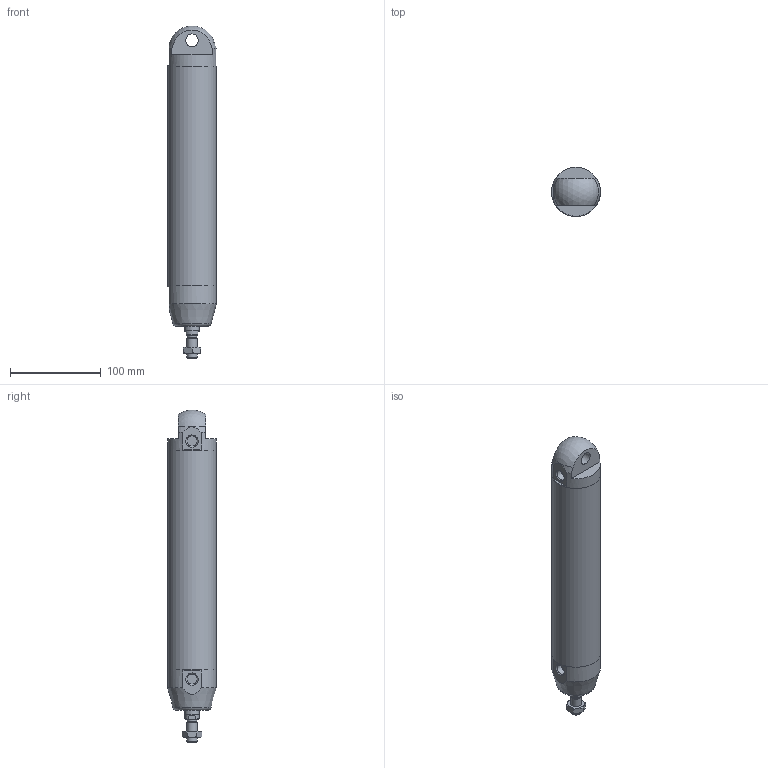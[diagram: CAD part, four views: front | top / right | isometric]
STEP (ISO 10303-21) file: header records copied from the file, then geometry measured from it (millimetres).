
FILE_DESCRIPTION(/* description */ (''),/* implementation_level */ '2;1');
FILE_NAME(/* name */ 'I:\Area Tecnica\Documenti\A-Manieri\_Inventor\12X\12X#A_###_####_#_#\12XAA_050_0200_#_#.stp',/* time_stamp */ '2015-04-22T12:06:43+02:00',/* author */ ('maniean1'),/* organization */ ('Pneumax S.p.A.'),/* preprocessor_version */ 'ST-DEVELOPER v15.2',/* originating_system */ 'Autodesk Inventor 2014',/* authorisation */ '');
FILE_SCHEMA (('AUTOMOTIVE_DESIGN { 1 0 10303 214 3 1 1 }'));
Length unit declared in the file: millimetre
Products named in the file (6): C1250_619-0200; 12X50_613; 12X50_605; S12X50_0200; 12X_50_11; 12XAA_050_0200_#_#
Bounding box: 54 x 54 x 366.83 mm (x, y, z)
Volume: 359705 mm3; surface area: 129079.9 mm2
Topology: 5 solids, 5 shells, 59 faces, 126 edges, 81 vertices
Faces by surface type: plane 31, cylinder 14, cone 12, torus 1, sphere 1
Full cylindrical faces by diameter (mm): 10.2 x1, 11.4 x2, 12 x2, 14 x2, 15.6 x1, 16 x1, 50 x2, 54 x3
Entity records: 1560 total; most frequent: CARTESIAN_POINT 288, DIRECTION 266, ORIENTED_EDGE 196, AXIS2_PLACEMENT_3D 120, EDGE_CURVE 98, EDGE_LOOP 94, VERTEX_POINT 76, ADVANCED_FACE 59
